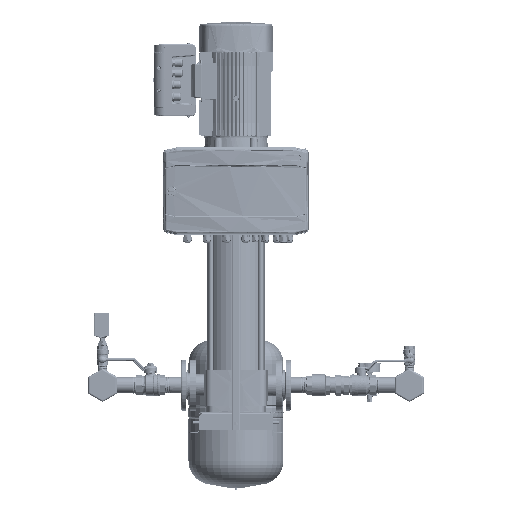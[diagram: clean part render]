
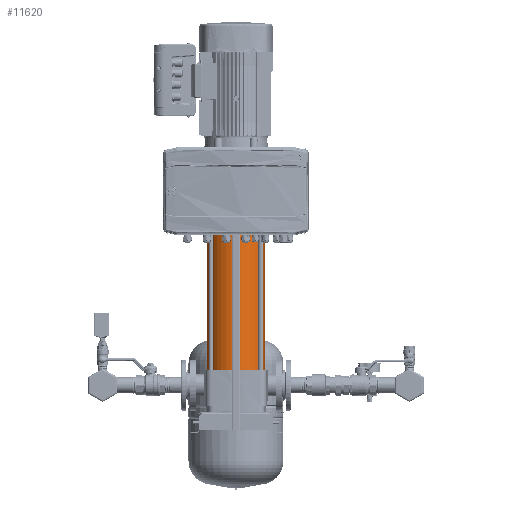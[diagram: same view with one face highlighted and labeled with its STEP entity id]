
A CAD part, left-side view. The second image highlights one B-rep face of the part: STEP entity #11620.
In plain terms, the highlighted cylindrical face has radius 85.35 mm (diameter 170.7 mm), a partial arc.
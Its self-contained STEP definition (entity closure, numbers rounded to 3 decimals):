
#11550=CARTESIAN_POINT('Axis2P3D Location',(434.,0.,0.)) ;
#11554=CARTESIAN_POINT('Vertex',(434.,-85.35,0.)) ;
#11556=CARTESIAN_POINT('Vertex',(434.,85.35,0.)) ;
#11577=CARTESIAN_POINT('Axis2P3D Location',(0.,0.,0.)) ;
#11582=CARTESIAN_POINT('Line Origine',(0.,-85.35,0.)) ;
#11586=CARTESIAN_POINT('Vertex',(0.,-85.35,0.)) ;
#11593=CARTESIAN_POINT('Vertex',(0.,85.35,0.)) ;
#11596=CARTESIAN_POINT('Line Origine',(0.,85.35,0.)) ;
#11609=CARTESIAN_POINT('Axis2P3D Location',(0.,0.,0.)) ;
#11584=VECTOR('Line Direction',#11583,1.) ;
#11598=VECTOR('Line Direction',#11597,1.) ;
#11551=DIRECTION('Axis2P3D Direction',(-1.,0.,0.)) ;
#11578=DIRECTION('Axis2P3D Direction',(1.,0.,0.)) ;
#11579=DIRECTION('Axis2P3D XDirection',(0.,-1.,0.)) ;
#11583=DIRECTION('Vector Direction',(1.,0.,0.)) ;
#11597=DIRECTION('Vector Direction',(1.,0.,0.)) ;
#11610=DIRECTION('Axis2P3D Direction',(1.,0.,0.)) ;
#11552=AXIS2_PLACEMENT_3D('Circle Axis2P3D',#11550,#11551,$) ;
#11580=AXIS2_PLACEMENT_3D('Cylinder Axis2P3D',#11577,#11578,#11579) ;
#11611=AXIS2_PLACEMENT_3D('Circle Axis2P3D',#11609,#11610,$) ;
#11585=LINE('Line',#11582,#11584) ;
#11599=LINE('Line',#11596,#11598) ;
#11553=CIRCLE('generated circle',#11552,85.35) ;
#11612=CIRCLE('generated circle',#11611,85.35) ;
#11581=CYLINDRICAL_SURFACE('generated cylinder',#11580,85.35) ;
#11558=EDGE_CURVE('',#11555,#11557,#11553,.T.) ;
#11588=EDGE_CURVE('',#11555,#11587,#11585,.F.) ;
#11600=EDGE_CURVE('',#11594,#11557,#11599,.T.) ;
#11613=EDGE_CURVE('',#11587,#11594,#11612,.F.) ;
#11615=ORIENTED_EDGE('',*,*,#11600,.F.) ;
#11616=ORIENTED_EDGE('',*,*,#11613,.F.) ;
#11617=ORIENTED_EDGE('',*,*,#11588,.F.) ;
#11618=ORIENTED_EDGE('',*,*,#11558,.T.) ;
#11614=EDGE_LOOP('',(#11615,#11616,#11617,#11618)) ;
#11555=VERTEX_POINT('',#11554) ;
#11557=VERTEX_POINT('',#11556) ;
#11587=VERTEX_POINT('',#11586) ;
#11594=VERTEX_POINT('',#11593) ;
#11620=ADVANCED_FACE('Solid1',(#11619),#11581,.T.) ;
#11619=FACE_OUTER_BOUND('',#11614,.T.) ;
